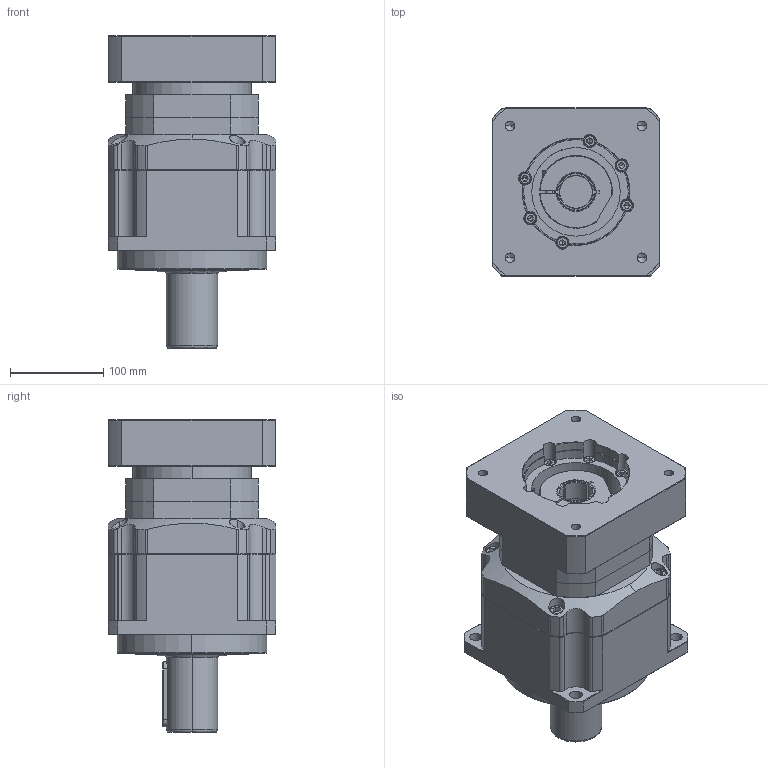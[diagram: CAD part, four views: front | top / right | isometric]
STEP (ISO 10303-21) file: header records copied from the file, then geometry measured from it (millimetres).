
FILE_DESCRIPTION (( 'STEP AP214' ), '1' );
FILE_NAME ('PAB-180-L2-S2-P1 35-114.3-200-M12.STEP', '2023-08-11T05:35:17', ( '微软用户' ), ( '微软中国' ), 'SwSTEP 2.0', 'SolidWorks 2018', '' );
FILE_SCHEMA (( 'AUTOMOTIVE_DESIGN' ));
Length unit declared in the file: millimetre
Products named in the file (12): 一级整体太阳轮PAB-142-D35外形图; PAB-180一级齿圈加出轴外形图; 萇儂楊擘PAB-142-114.3-M12-200F180H47; hexagon socket head cap screws gb_GB_FASTENER_SCREWS_HSHCS M10X35-N; 標杶D40 PAB-142-35謂蚚; spring lock washers--normal type gb_GB_FASTENER_WASHER_SW 10; spring lock washers--normal type gb_GB_FASTENER_WASHER_SW 8; hex socket set screws with flat point gb_GB_FASTENER_SCREWS_HSFP M16X16-N; hexagon socket head cap screws gb_GB_FASTENER_SCREWS_HSHCS M8X30-N; PAB-180-L2-S2-P1 35-114.3-200-M12; PAB-180二级齿圈外形图; PAB-180二级中间法兰外形图
Assembly tree (36 placements, depth 2):
  PAB-180-L2-S2-P1 35-114.3-200-M12
    spring lock washers--normal type gb_GB_FASTENER_WASHER_SW 10  x4
    一级整体太阳轮PAB-142-D35外形图
    PAB-180二级齿圈外形图
    PAB-180二级中间法兰外形图
    萇儂楊擘PAB-142-114.3-M12-200F180H47
    標杶D40 PAB-142-35謂蚚
    hexagon socket head cap screws gb_GB_FASTENER_SCREWS_HSHCS M10X35-N  x5
    hex socket set screws with flat point gb_GB_FASTENER_SCREWS_HSFP M16X16-N
    hexagon socket head cap screws gb_GB_FASTENER_SCREWS_HSHCS M8X30-N  x10
    spring lock washers--normal type gb_GB_FASTENER_WASHER_SW 8  x10
    PAB-180一级齿圈加出轴外形图
Bounding box: 180 x 180 x 335.5 mm (x, y, z)
Volume: 6332050.4 mm3; surface area: 489181.1 mm2
Topology: 36 solids, 36 shells, 1138 faces, 2772 edges, 1717 vertices
Faces by surface type: plane 469, cylinder 432, cone 201, bspline 36
Entity records: 22561 total; most frequent: CARTESIAN_POINT 5040, DIRECTION 3769, ORIENTED_EDGE 3428, EDGE_CURVE 1714, AXIS2_PLACEMENT_3D 1509, VERTEX_POINT 1096, EDGE_LOOP 792, CIRCLE 787
